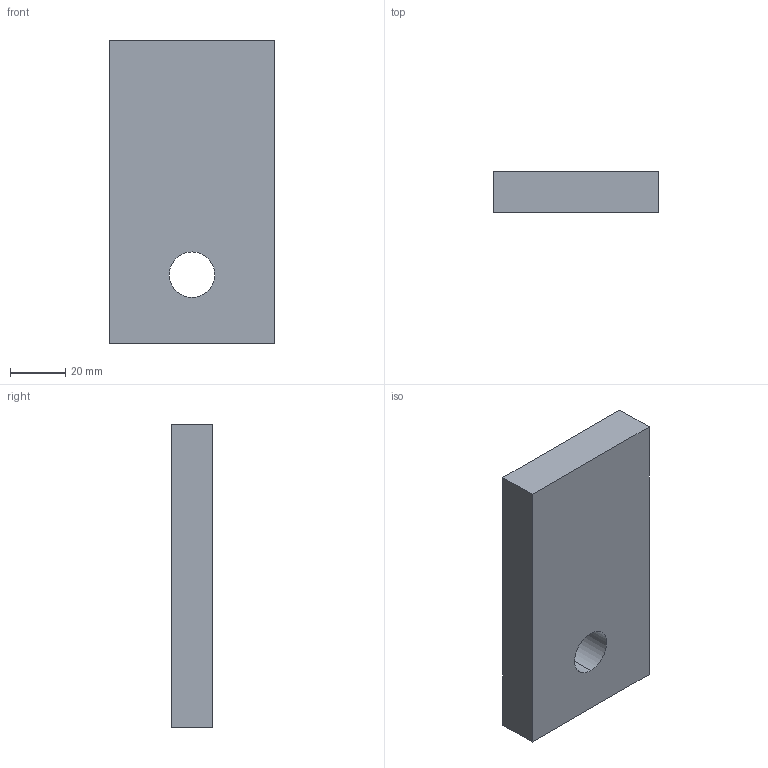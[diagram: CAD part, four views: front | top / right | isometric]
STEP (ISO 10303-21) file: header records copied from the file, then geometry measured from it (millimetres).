
FILE_DESCRIPTION (( 'STEP AP203' ), '1' );
FILE_NAME ('Druckplatte 110410.STEP', '2021-03-16T06:07:30', ( '' ), ( '' ), 'SwSTEP 2.0', 'SolidWorks 2013', '' );
FILE_SCHEMA (( 'CONFIG_CONTROL_DESIGN' ));
Length unit declared in the file: millimetre
Products named in the file (1): Druckplatte 110410
Bounding box: 60 x 15 x 110 mm (x, y, z)
Volume: 95792.6 mm3; surface area: 18649.9 mm2
Topology: 1 solids, 1 shells, 8 faces, 18 edges, 12 vertices
Faces by surface type: plane 6, cylinder 2
Entity records: 309 total; most frequent: DIRECTION 40, CARTESIAN_POINT 39, ORIENTED_EDGE 36, EDGE_CURVE 18, VECTOR 14, LINE 14, AXIS2_PLACEMENT_3D 13, VERTEX_POINT 12
